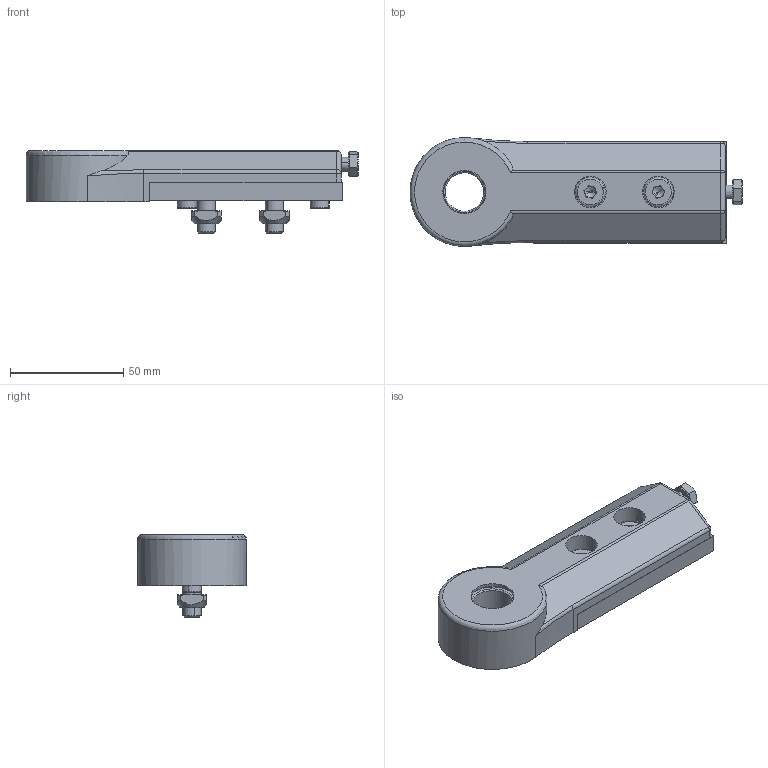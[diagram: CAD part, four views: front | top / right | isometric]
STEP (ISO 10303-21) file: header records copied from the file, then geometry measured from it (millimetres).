
FILE_DESCRIPTION (( 'STEP AP214' ), '1' );
FILE_NAME ('1.8067 45_32 reiällä.STEP', '2024-06-11T12:35:31', ( '' ), ( '' ), 'SwSTEP 2.0', 'SolidWorks 2024', '' );
FILE_SCHEMA (( 'AUTOMOTIVE_DESIGN' ));
Length unit declared in the file: millimetre
Products named in the file (1): 1.8067 45_32 reiällä
Bounding box: 146.38 x 48 x 36.5 mm (x, y, z)
Surface area: 40112.1 mm2 (no closed solid volume)
Topology: 0 solids, 13 shells, 263 faces, 616 edges, 380 vertices
Faces by surface type: plane 120, cylinder 64, cone 48, bspline 14, torus 13, sphere 4
Entity records: 10836 total; most frequent: CARTESIAN_POINT 1928, DIRECTION 1261, ORIENTED_EDGE 1192, EDGE_CURVE 610, AXIS2_PLACEMENT_3D 483, VERTEX_POINT 380, EDGE_LOOP 298, LINE 295
